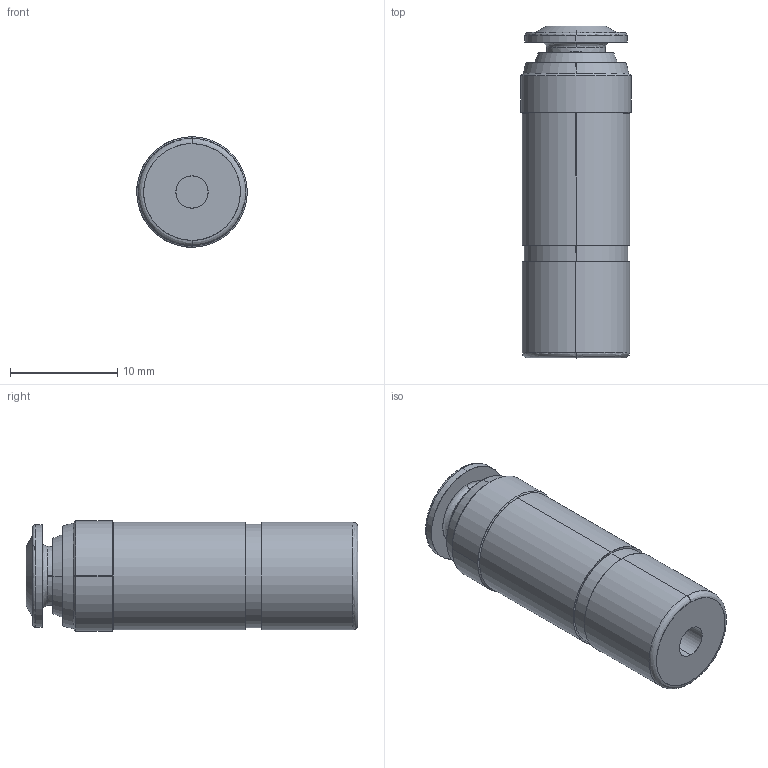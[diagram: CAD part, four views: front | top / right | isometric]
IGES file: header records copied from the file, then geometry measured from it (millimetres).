
Start section: SolidWorks IGES file using analytic representation for surfaces
Global section: file name: K:\Disegni Esecutivi\Serie 57000\ASSIEMI_57000\57700\ASSIEMI_.IGES_57700\5770000009A.IGS; native system: SolidWorks 2008; preprocessor: SolidWorks 2008; author: cad02; date: 080220.090732; units: millimetre
Bounding box: 10.3 x 30.9 x 10.3 mm (x, y, z)
Surface area: 1495.8 mm2 (no closed solid volume)
Topology: 0 solids, 0 shells, 53 faces, 868 edges, 866 vertices
Faces by surface type: revolution 30, bspline 23
